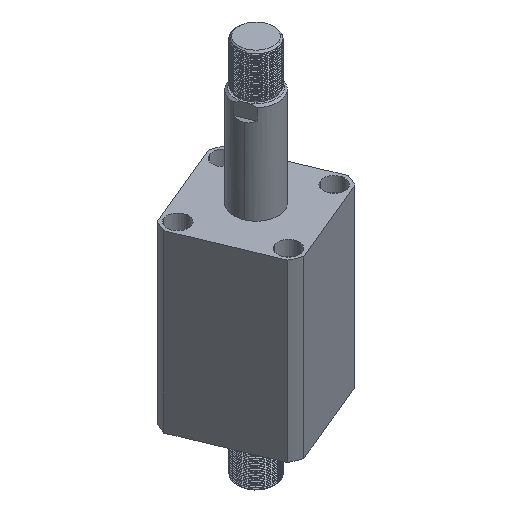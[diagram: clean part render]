
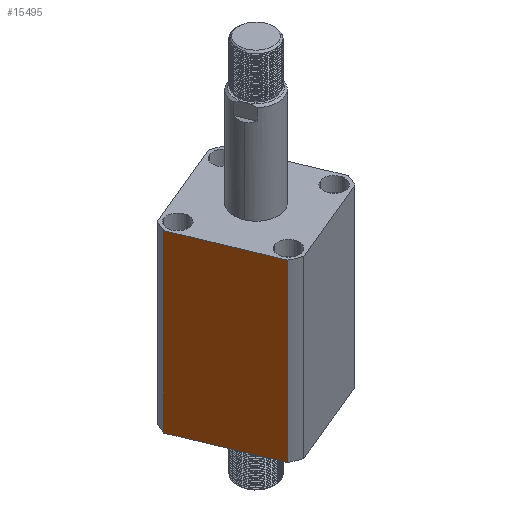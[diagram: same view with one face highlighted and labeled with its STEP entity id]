
A CAD part, isometric view. The second image highlights one B-rep face of the part: STEP entity #15495.
In plain terms, the highlighted planar face has unit normal (-0.924, -0.383, 0) as drawn and (0, 1, 0) by its records, which use the part's own axes.
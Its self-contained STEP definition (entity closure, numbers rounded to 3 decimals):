
#342 = DIRECTION ( 'NONE',  ( -1., 0., 0. ) ) ;
#532 = LINE ( 'NONE', #8347, #20710 ) ;
#1639 = PLANE ( 'NONE',  #3476 ) ;
#3476 = AXIS2_PLACEMENT_3D ( 'NONE', #5374, #3690, #17786 ) ;
#3576 = CARTESIAN_POINT ( 'NONE',  ( 47.971, 57., 178. ) ) ;
#3690 = DIRECTION ( 'NONE',  ( 0., -1., 0. ) ) ;
#3840 = CARTESIAN_POINT ( 'NONE',  ( -47.971, 57., 178. ) ) ;
#4593 = CARTESIAN_POINT ( 'NONE',  ( -47.971, 57., -122. ) ) ;
#4741 = FACE_OUTER_BOUND ( 'NONE', #24897, .T. ) ;
#5374 = CARTESIAN_POINT ( 'NONE',  ( -57., 57., 178. ) ) ;
#5762 = VERTEX_POINT ( 'NONE', #3840 ) ;
#8347 = CARTESIAN_POINT ( 'NONE',  ( -57., 57., 0. ) ) ;
#8561 = VECTOR ( 'NONE', #10553, 1000. ) ;
#8562 = DIRECTION ( 'NONE',  ( 0., 0., 1. ) ) ;
#8936 = ORIENTED_EDGE ( 'NONE', *, *, #19806, .T. ) ;
#9042 = EDGE_CURVE ( 'NONE', #14608, #5762, #19107, .T. ) ;
#9072 = DIRECTION ( 'NONE',  ( -1., 0., 0. ) ) ;
#10179 = ORIENTED_EDGE ( 'NONE', *, *, #26053, .F. ) ;
#10553 = DIRECTION ( 'NONE',  ( 0., 0., -1. ) ) ;
#13865 = EDGE_CURVE ( 'NONE', #17793, #14608, #25577, .T. ) ;
#14039 = CARTESIAN_POINT ( 'NONE',  ( -47.971, 57., 0. ) ) ;
#14608 = VERTEX_POINT ( 'NONE', #3576 ) ;
#15495 = ADVANCED_FACE ( 'NONE', ( #4741 ), #1639, .F. ) ;
#17786 = DIRECTION ( 'NONE',  ( 0., 0., -1. ) ) ;
#17793 = VERTEX_POINT ( 'NONE', #20876 ) ;
#18453 = VECTOR ( 'NONE', #9072, 1000. ) ;
#19107 = LINE ( 'NONE', #23080, #18453 ) ;
#19360 = LINE ( 'NONE', #4593, #8561 ) ;
#19806 = EDGE_CURVE ( 'NONE', #17793, #22437, #532, .T. ) ;
#20184 = VECTOR ( 'NONE', #8562, 1000. ) ;
#20654 = CARTESIAN_POINT ( 'NONE',  ( 47.971, 57., -122. ) ) ;
#20710 = VECTOR ( 'NONE', #342, 1000. ) ;
#20876 = CARTESIAN_POINT ( 'NONE',  ( 47.971, 57., 0. ) ) ;
#20937 = ORIENTED_EDGE ( 'NONE', *, *, #9042, .F. ) ;
#22437 = VERTEX_POINT ( 'NONE', #14039 ) ;
#23080 = CARTESIAN_POINT ( 'NONE',  ( -57., 57., 178. ) ) ;
#24355 = ORIENTED_EDGE ( 'NONE', *, *, #13865, .F. ) ;
#24897 = EDGE_LOOP ( 'NONE', ( #24355, #8936, #10179, #20937 ) ) ;
#25577 = LINE ( 'NONE', #20654, #20184 ) ;
#26053 = EDGE_CURVE ( 'NONE', #5762, #22437, #19360, .T. ) ;
